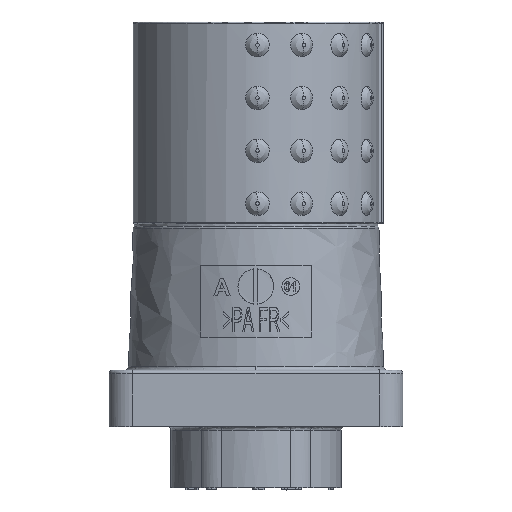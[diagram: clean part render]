
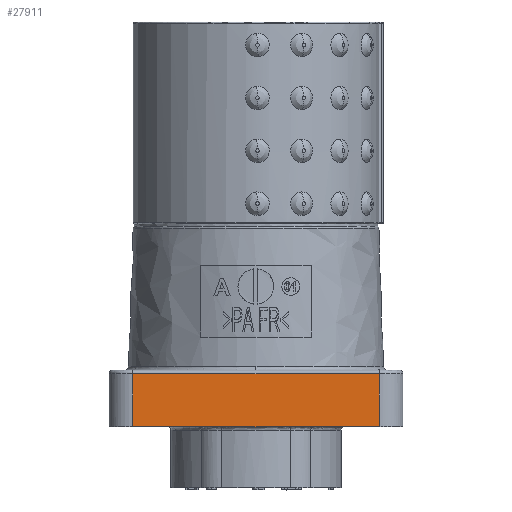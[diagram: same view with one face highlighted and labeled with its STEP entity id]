
A CAD part, front view. The second image highlights one B-rep face of the part: STEP entity #27911.
In plain terms, the highlighted planar face has unit normal (0, -1, 0).
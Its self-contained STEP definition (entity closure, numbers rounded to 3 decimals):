
#1482 = ORIENTED_EDGE ( 'NONE', *, *, #22964, .F. ) ;
#1627 = VECTOR ( 'NONE', #22257, 1000. ) ;
#2051 = VECTOR ( 'NONE', #14480, 1000. ) ;
#2567 = CARTESIAN_POINT ( 'NONE',  ( 36.281, 7.653, 9.961 ) ) ;
#4022 = EDGE_LOOP ( 'NONE', ( #19069, #51418, #17977, #1482 ) ) ;
#8955 = VECTOR ( 'NONE', #32152, 1000. ) ;
#9169 = CARTESIAN_POINT ( 'NONE',  ( 36.281, 7.653, 5.461 ) ) ;
#12173 = EDGE_CURVE ( 'NONE', #17180, #22816, #48123, .T. ) ;
#13634 = CARTESIAN_POINT ( 'NONE',  ( 15.281, 7.653, 9.961 ) ) ;
#14044 = EDGE_CURVE ( 'NONE', #26360, #36950, #17222, .T. ) ;
#14480 = DIRECTION ( 'NONE',  ( 0., 0., -1. ) ) ;
#17180 = VERTEX_POINT ( 'NONE', #13634 ) ;
#17222 = LINE ( 'NONE', #9169, #1627 ) ;
#17751 = CARTESIAN_POINT ( 'NONE',  ( 15.281, 7.653, 9.961 ) ) ;
#17977 = ORIENTED_EDGE ( 'NONE', *, *, #14044, .F. ) ;
#19069 = ORIENTED_EDGE ( 'NONE', *, *, #12173, .T. ) ;
#21229 = DIRECTION ( 'NONE',  ( 0., 0., -1. ) ) ;
#22001 = FACE_OUTER_BOUND ( 'NONE', #4022, .T. ) ;
#22257 = DIRECTION ( 'NONE',  ( 0., 0., -1. ) ) ;
#22816 = VERTEX_POINT ( 'NONE', #49301 ) ;
#22944 = VECTOR ( 'NONE', #34032, 1000. ) ;
#22964 = EDGE_CURVE ( 'NONE', #17180, #26360, #23575, .T. ) ;
#23296 = CARTESIAN_POINT ( 'NONE',  ( 15.281, 7.653, 5.461 ) ) ;
#23575 = LINE ( 'NONE', #17751, #22944 ) ;
#26276 = CARTESIAN_POINT ( 'NONE',  ( 38.281, 7.653, 5.461 ) ) ;
#26360 = VERTEX_POINT ( 'NONE', #2567 ) ;
#27289 = CARTESIAN_POINT ( 'NONE',  ( 36.281, 7.653, 5.461 ) ) ;
#27911 = ADVANCED_FACE ( 'NONE', ( #22001 ), #38554, .T. ) ;
#28641 = AXIS2_PLACEMENT_3D ( 'NONE', #26276, #34268, #21229 ) ;
#31880 = CARTESIAN_POINT ( 'NONE',  ( 36.281, 7.653, 5.461 ) ) ;
#32152 = DIRECTION ( 'NONE',  ( -1., 0., 0. ) ) ;
#34032 = DIRECTION ( 'NONE',  ( 1., 0., 0. ) ) ;
#34268 = DIRECTION ( 'NONE',  ( 0., -1., 0. ) ) ;
#36950 = VERTEX_POINT ( 'NONE', #27289 ) ;
#38554 = PLANE ( 'NONE',  #28641 ) ;
#48123 = LINE ( 'NONE', #23296, #2051 ) ;
#48986 = EDGE_CURVE ( 'NONE', #36950, #22816, #52259, .T. ) ;
#49301 = CARTESIAN_POINT ( 'NONE',  ( 15.281, 7.653, 5.461 ) ) ;
#51418 = ORIENTED_EDGE ( 'NONE', *, *, #48986, .F. ) ;
#52259 = LINE ( 'NONE', #31880, #8955 ) ;
